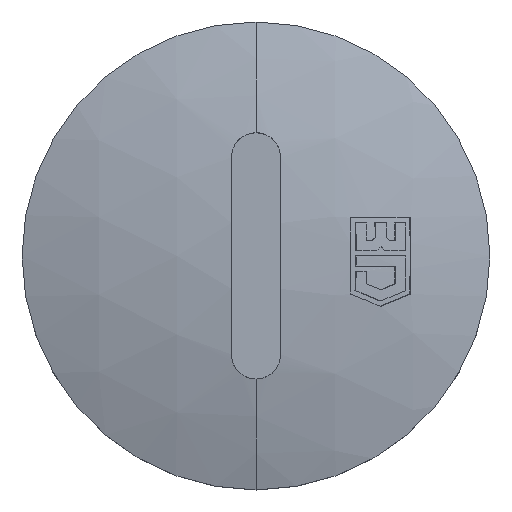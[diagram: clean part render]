
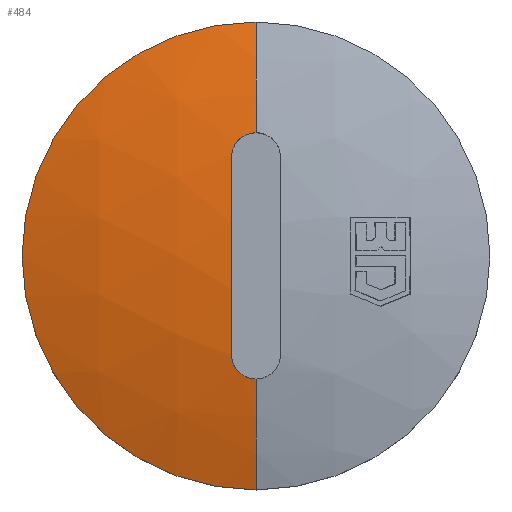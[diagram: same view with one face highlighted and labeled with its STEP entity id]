
A CAD part, top view. The second image highlights one B-rep face of the part: STEP entity #484.
In plain terms, the highlighted spherical face has radius 30.834 mm.
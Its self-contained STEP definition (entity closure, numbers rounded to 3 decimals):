
#336 = VERTEX_POINT ( 'NONE', #1144 ) ;
#453 = EDGE_CURVE ( 'NONE', #465, #454, #1400, .T. ) ;
#454 = VERTEX_POINT ( 'NONE', #1399 ) ;
#455 = ORIENTED_EDGE ( 'NONE', *, *, #456, .T. ) ;
#456 = EDGE_CURVE ( 'NONE', #454, #457, #1335, .T. ) ;
#457 = VERTEX_POINT ( 'NONE', #1382 ) ;
#465 = VERTEX_POINT ( 'NONE', #1440 ) ;
#467 = EDGE_CURVE ( 'NONE', #465, #336, #1438, .T. ) ;
#472 = VERTEX_POINT ( 'NONE', #1328 ) ;
#484 = ADVANCED_FACE ( 'NONE', ( #1455 ), #1454, .T. ) ;
#485 = EDGE_LOOP ( 'NONE', ( #486, #487, #455, #496, #498, #489 ) ) ;
#486 = ORIENTED_EDGE ( 'NONE', *, *, #467, .F. ) ;
#487 = ORIENTED_EDGE ( 'NONE', *, *, #453, .T. ) ;
#489 = ORIENTED_EDGE ( 'NONE', *, *, #490, .F. ) ;
#490 = EDGE_CURVE ( 'NONE', #336, #472, #1545, .T. ) ;
#496 = ORIENTED_EDGE ( 'NONE', *, *, #497, .T. ) ;
#497 = EDGE_CURVE ( 'NONE', #457, #505, #1583, .T. ) ;
#498 = ORIENTED_EDGE ( 'NONE', *, *, #502, .T. ) ;
#502 = EDGE_CURVE ( 'NONE', #505, #472, #1673, .T. ) ;
#505 = VERTEX_POINT ( 'NONE', #1667 ) ;
#1144 = CARTESIAN_POINT ( 'NONE',  ( 0., -9.5, 8.5 ) ) ;
#1328 = CARTESIAN_POINT ( 'NONE',  ( 0., 9.5, 8.5 ) ) ;
#1330 = DIRECTION ( 'NONE',  ( 0., 1., 0. ) ) ;
#1331 = DIRECTION ( 'NONE',  ( 1., 0., 0. ) ) ;
#1332 = CARTESIAN_POINT ( 'NONE',  ( 0., 0., -20.834 ) ) ;
#1333 = DIRECTION ( 'NONE',  ( -1., 0., 0. ) ) ;
#1334 = AXIS2_PLACEMENT_3D ( 'NONE', #1401, #1333, #1383 ) ;
#1335 = CIRCLE ( 'NONE', #1334, 30.818 ) ;
#1336 = CARTESIAN_POINT ( 'NONE',  ( -1., -4., 9.723 ) ) ;
#1337 = CARTESIAN_POINT ( 'NONE',  ( -1., -4.263, 9.689 ) ) ;
#1338 = CARTESIAN_POINT ( 'NONE',  ( -0.895, -4.519, 9.655 ) ) ;
#1339 = CARTESIAN_POINT ( 'NONE',  ( -0.615, -4.799, 9.618 ) ) ;
#1340 = CARTESIAN_POINT ( 'NONE',  ( -0.505, -4.873, 9.609 ) ) ;
#1341 = CARTESIAN_POINT ( 'NONE',  ( -0.262, -4.974, 9.595 ) ) ;
#1342 = CARTESIAN_POINT ( 'NONE',  ( -0.131, -5., 9.592 ) ) ;
#1343 = CARTESIAN_POINT ( 'NONE',  ( 0., -5., 9.592 ) ) ;
#1382 = CARTESIAN_POINT ( 'NONE',  ( -1., 4., 9.723 ) ) ;
#1383 = DIRECTION ( 'NONE',  ( 0., 0., -1. ) ) ;
#1399 = CARTESIAN_POINT ( 'NONE',  ( -1., -4., 9.723 ) ) ;
#1400 = B_SPLINE_CURVE_WITH_KNOTS ( 'NONE', 3,
 ( #1343, #1342, #1341, #1340, #1339, #1338, #1337, #1336 ),
 .UNSPECIFIED., .F., .F.,
 ( 4, 2, 2, 4 ),
 ( 0.002, 0.002, 0.002, 0.003 ),
 .UNSPECIFIED. ) ;
#1401 = CARTESIAN_POINT ( 'NONE',  ( -1., 0., -20.834 ) ) ;
#1437 = AXIS2_PLACEMENT_3D ( 'NONE', #1332, #1331, #1330 ) ;
#1438 = CIRCLE ( 'NONE', #1437, 30.834 ) ;
#1440 = CARTESIAN_POINT ( 'NONE',  ( 0., -5., 9.592 ) ) ;
#1450 = DIRECTION ( 'NONE',  ( 0., 1., 0. ) ) ;
#1451 = DIRECTION ( 'NONE',  ( 1., 0., 0. ) ) ;
#1452 = CARTESIAN_POINT ( 'NONE',  ( 0., 0., -20.834 ) ) ;
#1453 = AXIS2_PLACEMENT_3D ( 'NONE', #1452, #1451, #1450 ) ;
#1454 = SPHERICAL_SURFACE ( 'NONE', #1453, 30.834 ) ;
#1455 = FACE_OUTER_BOUND ( 'NONE', #485, .T. ) ;
#1544 = AXIS2_PLACEMENT_3D ( 'NONE', #1683, #1682, #1681 ) ;
#1545 = CIRCLE ( 'NONE', #1544, 9.5 ) ;
#1549 = CARTESIAN_POINT ( 'NONE',  ( -0.616, 4.798, 9.618 ) ) ;
#1550 = CARTESIAN_POINT ( 'NONE',  ( -0.801, 4.613, 9.643 ) ) ;
#1551 = CARTESIAN_POINT ( 'NONE',  ( -0.874, 4.503, 9.657 ) ) ;
#1552 = CARTESIAN_POINT ( 'NONE',  ( -0.974, 4.261, 9.689 ) ) ;
#1553 = CARTESIAN_POINT ( 'NONE',  ( -1., 4.132, 9.706 ) ) ;
#1582 = CARTESIAN_POINT ( 'NONE',  ( -1., 4., 9.723 ) ) ;
#1583 = B_SPLINE_CURVE_WITH_KNOTS ( 'NONE', 3,
 ( #1582, #1553, #1552, #1551, #1550, #1549, #1677, #1676, #1675, #1674 ),
 .UNSPECIFIED., .F., .F.,
 ( 4, 2, 2, 2, 4 ),
 ( 0., 0., 0.001, 0.001, 0.002 ),
 .UNSPECIFIED. ) ;
#1584 = CARTESIAN_POINT ( 'NONE',  ( 0., 0., -20.834 ) ) ;
#1667 = CARTESIAN_POINT ( 'NONE',  ( 0., 5., 9.592 ) ) ;
#1670 = DIRECTION ( 'NONE',  ( 0., 0., 1. ) ) ;
#1671 = DIRECTION ( 'NONE',  ( -1., 0., 0. ) ) ;
#1672 = AXIS2_PLACEMENT_3D ( 'NONE', #1584, #1671, #1670 ) ;
#1673 = CIRCLE ( 'NONE', #1672, 30.834 ) ;
#1674 = CARTESIAN_POINT ( 'NONE',  ( 0., 5., 9.592 ) ) ;
#1675 = CARTESIAN_POINT ( 'NONE',  ( -0.131, 5., 9.592 ) ) ;
#1676 = CARTESIAN_POINT ( 'NONE',  ( -0.263, 4.974, 9.595 ) ) ;
#1677 = CARTESIAN_POINT ( 'NONE',  ( -0.505, 4.873, 9.609 ) ) ;
#1681 = DIRECTION ( 'NONE',  ( 0., 1., 0. ) ) ;
#1682 = DIRECTION ( 'NONE',  ( 0., 0., -1. ) ) ;
#1683 = CARTESIAN_POINT ( 'NONE',  ( 0., 0., 8.5 ) ) ;
